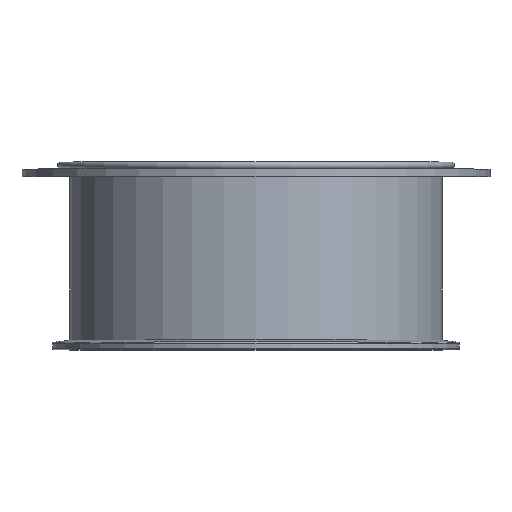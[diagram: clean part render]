
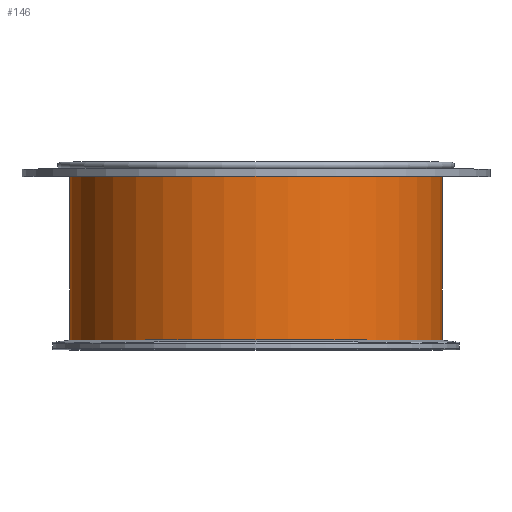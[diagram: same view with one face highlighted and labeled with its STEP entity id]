
A CAD part, top view. The second image highlights one B-rep face of the part: STEP entity #146.
In plain terms, the highlighted cylindrical face has radius 100.8 mm (diameter 201.6 mm), a full revolution.
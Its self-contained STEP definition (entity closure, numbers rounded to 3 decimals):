
#120=CYLINDRICAL_SURFACE('',#544,100.8);
#146=ADVANCED_FACE('',(#221,#222),#120,.T.);
#221=FACE_BOUND('',#293,.T.);
#222=FACE_BOUND('',#294,.T.);
#293=EDGE_LOOP('',(#365));
#294=EDGE_LOOP('',(#366));
#365=ORIENTED_EDGE('',*,*,#438,.F.);
#366=ORIENTED_EDGE('',*,*,#446,.F.);
#402=VERTEX_POINT('',#756);
#410=VERTEX_POINT('',#777);
#438=EDGE_CURVE('',#402,#402,#474,.T.);
#446=EDGE_CURVE('',#410,#410,#482,.T.);
#474=CIRCLE('',#529,100.8);
#482=CIRCLE('',#542,100.8);
#529=AXIS2_PLACEMENT_3D('',#755,#640,#641);
#542=AXIS2_PLACEMENT_3D('',#776,#666,#667);
#544=AXIS2_PLACEMENT_3D('',#779,#670,#671);
#640=DIRECTION('',(0.,-1.,0.));
#641=DIRECTION('',(-1.,0.,0.));
#666=DIRECTION('',(0.,1.,0.));
#667=DIRECTION('',(1.,0.,0.));
#670=DIRECTION('',(0.,1.,0.));
#671=DIRECTION('',(1.,0.,0.));
#755=CARTESIAN_POINT('',(0.,5.196,0.));
#756=CARTESIAN_POINT('',(-100.8,5.196,0.));
#776=CARTESIAN_POINT('',(0.,99.2,0.));
#777=CARTESIAN_POINT('',(100.8,99.2,0.));
#779=CARTESIAN_POINT('',(0.,-192.076,0.));
